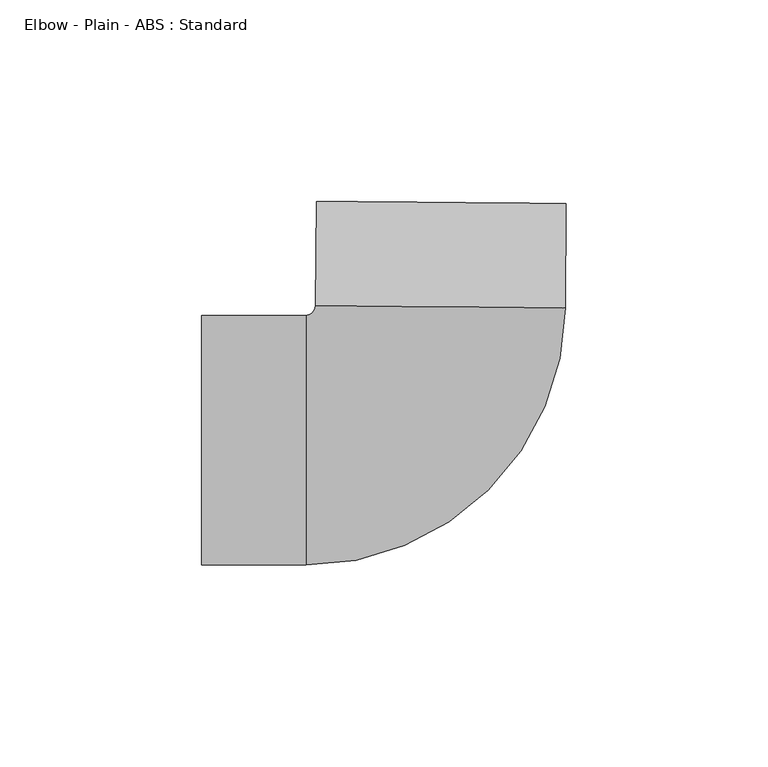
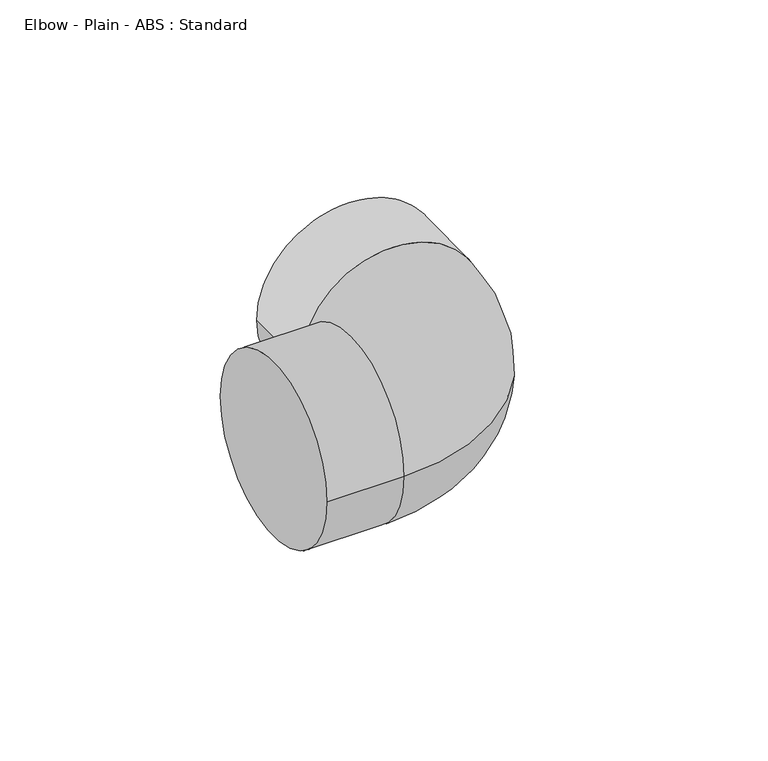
"""IFC4 building model written with IfcOpenShell, lengths in millimetres: pipe fitting geometry, Elbow - Plain - ABS : Standard."""

from ifc_helpers import new_model, si_unit, point, frame, origin, place, context, project, spatial, circle_curve, ellipse_curve, trimmed, source, transform, mapped, element, save
from ifc_brep_helpers import plane_surface, cylinder_surface, revolved_surface, advanced_brep


def elbow_plain_abs_standard_c27d120d(model_context):
    return source(origin(), model_context, "Body", "AdvancedBrep", [
        advanced_brep(
        [(-59.0, -31.0, 0.0), (-59.0, 31.0, 0.0), (-33.08, -31.0, 0.0), (-33.08, 31.0, 0.0), (-30.7064234, 33.3526905, 0.0), (31.291155, 32.8047255, 0.0), (31.5202397, 58.7237132, 0.0), (-30.4773387, 59.2716781, 0.0)],
        [
            (0, 1, circle_curve(frame((-59.0, 0.0, 0.0), z_axis=(-1.0, 0.0, 0.0), x_axis=(0.0, 1.0, 0.0)), 31.0)),
            (1, 0, circle_curve(frame((-59.0, 0.0, 0.0), z_axis=(-1.0, 0.0, 0.0), x_axis=(0.0, 1.0, 0.0)), 31.0)),
            (0, 2),
            (2, 3, circle_curve(frame((-33.08, 0.0, 0.0), z_axis=(-1.0, 0.0, 0.0), x_axis=(0.0, 1.0, 0.0)), 31.0)),
            (3, 1),
            (3, 2, circle_curve(frame((-33.08, 0.0, 0.0), z_axis=(-1.0, 0.0, 0.0), x_axis=(0.0, 1.0, 0.0)), 31.0)),
            (4, 3, circle_curve(frame((-33.08, 33.3736693, 0.0), z_axis=(0.0, 0.0, -1.0), x_axis=(0.0, -1.0, 0.0)), 2.3736693)),
            (2, 5, circle_curve(frame((-33.08, 33.3736693, 0.0), z_axis=(0.0, 0.0, 1.0), x_axis=(0.0, -1.0, 0.0)), 64.3736693)),
            (5, 4, circle_curve(frame((0.2923658, 33.078708, 0.0), z_axis=(-0.008838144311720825, -0.9999609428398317, 0.0), x_axis=(-0.9999609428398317, 0.008838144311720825, 0.0)), 31.0)),
            (4, 5, circle_curve(frame((0.2923658, 33.078708, 0.0), z_axis=(-0.008838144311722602, -0.9999609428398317, 0.0), x_axis=(-0.9999609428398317, 0.008838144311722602, 0.0)), 31.0)),
            (6, 7, circle_curve(frame((0.5214505, 58.9976956, 0.0), z_axis=(0.008838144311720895, 0.9999609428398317, 0.0), x_axis=(-0.9999609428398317, 0.008838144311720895, 0.0)), 31.0)),
            (7, 6, circle_curve(frame((0.5214505, 58.9976956, 0.0), z_axis=(0.008838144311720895, 0.9999609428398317, 0.0), x_axis=(-0.9999609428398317, 0.008838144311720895, 0.0)), 31.0)),
            (5, 6),
            (7, 4),
        ],
        [
            plane_surface(frame((-59.0, 0.0, 0.0), z_axis=(-1.0, 0.0, 0.0), x_axis=(0.0, 0.0, 1.0))),
            cylinder_surface(frame((-59.0, 0.0, 0.0), z_axis=(-1.0, 0.0, 0.0), x_axis=(0.0, 1.0, 0.0)), 31.0),
            revolved_surface(trimmed(ellipse_curve(frame((-33.08, 0.0, 0.0), z_axis=(-1.0, 0.0, 0.0), x_axis=(0.0, 1.0, 0.0)), 31.0, 31.0), [point((-33.08, -31.0, 0.0))], [point((-33.08, 31.0, 0.0))], True, "CARTESIAN"), (-33.08, 33.3736693, 0.0), (0.0, 0.0, 1.0)),
            revolved_surface(trimmed(ellipse_curve(frame((-33.08, 0.0, 0.0), z_axis=(-1.0, 0.0, 0.0), x_axis=(0.0, 1.0, 0.0)), 31.0, 31.0), [point((-33.08, 31.0, 0.0))], [point((-33.08, -31.0, 0.0))], True, "CARTESIAN"), (-33.08, 33.3736693, 0.0), (0.0, 0.0, 1.0)),
            plane_surface(frame((0.5214505, 58.9976956, 0.0), z_axis=(0.008838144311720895, 0.9999609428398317, 0.0), x_axis=(0.0, 0.0, 1.0))),
            cylinder_surface(frame((0.2923658, 33.078708, 0.0), z_axis=(-0.008838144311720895, -0.9999609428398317, 0.0), x_axis=(-0.9999609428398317, 0.008838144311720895, 0.0)), 31.0),
        ],
        [
            (0, [[1, 2]]),
            (1, [[-1, 3, 4, 5]]),
            (1, [[-2, -5, 6, -3]]),
            (2, [[7, -4, 8, 9]]),
            (3, [[-8, -6, -7, 10]]),
            (4, [[11, 12]]),
            (5, [[-9, 13, -12, 14]]),
            (5, [[-10, -14, -11, -13]]),
        ],
    ),
    ])


if __name__ == "__main__":
    model = new_model("IFC4")
    model_context = context("Model", 3, world=origin())
    ifc_project = project(units=[si_unit("LENGTHUNIT", "METRE", prefix="MILLI")], contexts=[model_context])
    site = spatial("IfcSite", under=ifc_project)
    building = spatial("IfcBuilding", under=site)
    placement = place(None, origin())
    elbow_plain_abs_standard_shape = elbow_plain_abs_standard_c27d120d(model_context)
    element("IfcPipeFitting", 1, ObjectType="Elbow - Plain - ABS : Standard", at=placement, inside=building, context=model_context, shape_type="MappedRepresentation", body=[
        mapped(elbow_plain_abs_standard_shape, transform((0.0, 0.0, 0.0), x_axis=(1.0, 0.0, 0.0), y_axis=(0.0, 1.0, 0.0), z_axis=(0.0, 0.0, 1.0))),
    ])
    save(model, "model.ifc")
